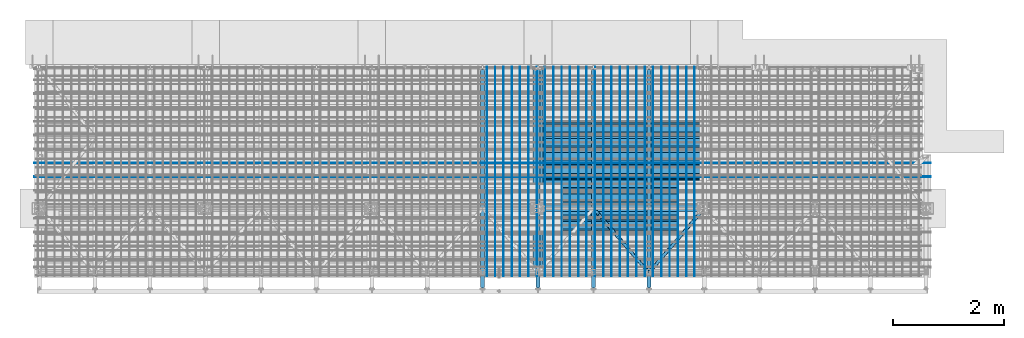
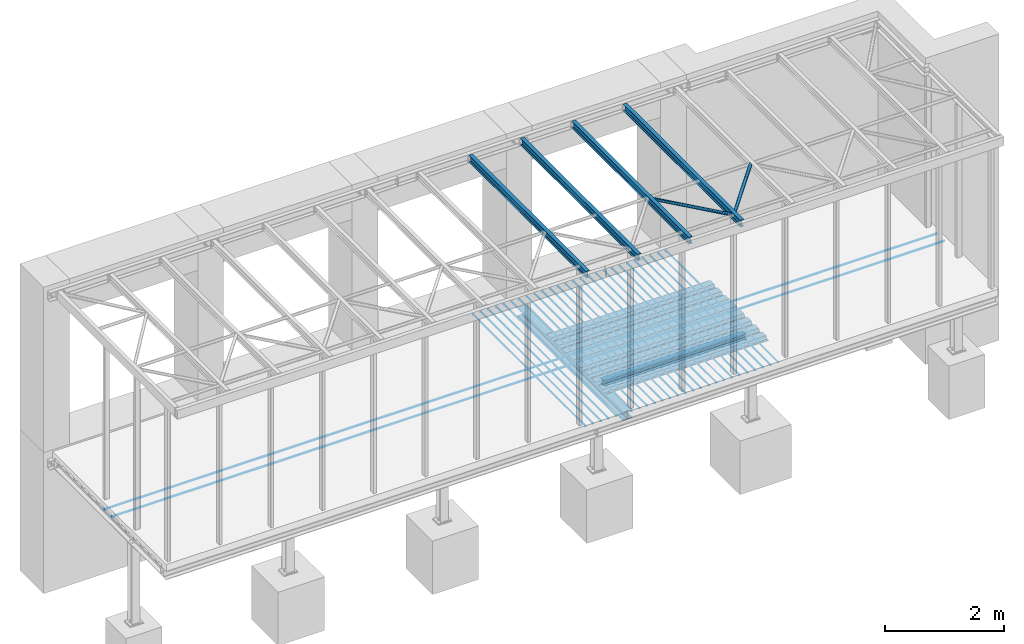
# One storey, part 7 of 27: 38 beams, 38 elements without a shape of their own.
"""IFC2X3 building model written with IfcOpenShell, lengths in millimetres."""

from ifc_helpers import new_model, si_unit, frame, origin_with_axes, origin_2d_with_axis, place, context, subcontext, project, spatial, polyline, circle, hollow_circle, i_section, outline, extrude, boolean, halfspace, material, type_object, element, aggregate, save


model = new_model("IFC2X3")

# Units and contexts
model_context = context("Model", 3, precision=1e-05, world=origin_with_axes())
body_context = subcontext(model_context, "Body", "Model", "MODEL_VIEW")
ifc_project = project(units=[si_unit("LENGTHUNIT", "METRE", prefix="MILLI"), si_unit("AREAUNIT", "SQUARE_METRE"), si_unit("VOLUMEUNIT", "CUBIC_METRE"), si_unit("MASSUNIT", "GRAM", prefix="KILO"), si_unit("TIMEUNIT", "SECOND"), si_unit("PLANEANGLEUNIT", "RADIAN"), si_unit("SOLIDANGLEUNIT", "STERADIAN"), si_unit("THERMODYNAMICTEMPERATUREUNIT", "DEGREE_CELSIUS"), si_unit("LUMINOUSINTENSITYUNIT", "LUMEN")], contexts=[model_context])

# Site, building, storey
site_placement = place(None, origin_with_axes())
site = spatial("IfcSite", under=ifc_project, at=site_placement, Name="Undefined", CompositionType="ELEMENT")
building_placement = place(site_placement, origin_with_axes())
building = spatial("IfcBuilding", under=site, at=building_placement, Name="Undefined", CompositionType="ELEMENT")
storey_placement = place(building_placement, origin_with_axes())
storey = spatial("IfcBuildingStorey", under=building, at=storey_placement, Name="Undefined", CompositionType="ELEMENT", Elevation=0.0)

# Assembly, beam
assembly_1_placement = place(storey_placement, origin_with_axes())
assembly_1 = element("IfcElementAssembly", 1, at=assembly_1_placement, inside=storey, Name="Steel Assembly", AssemblyPlace="NOTDEFINED", PredefinedType="RIGID_FRAME")
ifc_material = material(Name="STEEL/S235JR")
beam_type_1 = type_object("IfcBeamType", Name="D8", PredefinedType="NOTDEFINED")
beam_1_placement = place(assembly_1_placement, frame((11877.5, 3814.99758213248, -49.0), z_axis=(0.0, 0.0, 1.0), x_axis=(0.0, -1.0, 0.0)))
beam_1 = element("IfcBeam", 2, at=beam_1_placement, type_object=beam_type_1, material=ifc_material, Name="VÝSTUZ PLECHODOSKA", ObjectType="D8", context=body_context, shape_type="SweptSolid", body=[
    extrude(circle(Radius=4.0, at=origin_2d_with_axis()), frame((3779.99758213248, 0.0, 0.0), z_axis=(-1.0, 0.0, 0.0), x_axis=(0.0, -1.0, 0.0)), (0.0, 0.0, 1.0), 3780.0),
])
aggregate(assembly_1, [beam_1])

assembly_2_placement = place(storey_placement, origin_with_axes())
assembly_2 = element("IfcElementAssembly", 3, at=assembly_2_placement, inside=storey, Name="Steel Assembly", AssemblyPlace="NOTDEFINED", PredefinedType="RIGID_FRAME")
beam_2_placement = place(assembly_2_placement, frame((11727.5, 3814.99758213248, -49.0), z_axis=(0.0, 0.0, 1.0), x_axis=(0.0, -1.0, 0.0)))
beam_2 = element("IfcBeam", 4, at=beam_2_placement, type_object=beam_type_1, material=ifc_material, Name="VÝSTUZ PLECHODOSKA", ObjectType="D8", context=body_context, shape_type="SweptSolid", body=[
    extrude(circle(Radius=4.0, at=origin_2d_with_axis()), frame((3779.99758213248, 0.0, 0.0), z_axis=(-1.0, 0.0, 0.0), x_axis=(0.0, -1.0, 0.0)), (0.0, 0.0, 1.0), 3780.0),
])
aggregate(assembly_2, [beam_2])

assembly_3_placement = place(storey_placement, origin_with_axes())
assembly_3 = element("IfcElementAssembly", 5, at=assembly_3_placement, inside=storey, Name="Steel Assembly", AssemblyPlace="NOTDEFINED", PredefinedType="RIGID_FRAME")
beam_3_placement = place(assembly_3_placement, frame((11577.5, 3814.99758213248, -49.0), z_axis=(0.0, 0.0, 1.0), x_axis=(0.0, -1.0, 0.0)))
beam_3 = element("IfcBeam", 6, at=beam_3_placement, type_object=beam_type_1, material=ifc_material, Name="VÝSTUZ PLECHODOSKA", ObjectType="D8", context=body_context, shape_type="SweptSolid", body=[
    extrude(circle(Radius=4.0, at=origin_2d_with_axis()), frame((3779.99758213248, 0.0, 0.0), z_axis=(-1.0, 0.0, 0.0), x_axis=(0.0, -1.0, 0.0)), (0.0, 0.0, 1.0), 3780.0),
])
aggregate(assembly_3, [beam_3])

assembly_4_placement = place(storey_placement, origin_with_axes())
assembly_4 = element("IfcElementAssembly", 7, at=assembly_4_placement, inside=storey, Name="Steel Assembly", AssemblyPlace="NOTDEFINED", PredefinedType="RIGID_FRAME")
beam_4_placement = place(assembly_4_placement, frame((11427.5, 3814.99758213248, -49.0), z_axis=(0.0, 0.0, 1.0), x_axis=(0.0, -1.0, 0.0)))
beam_4 = element("IfcBeam", 8, at=beam_4_placement, type_object=beam_type_1, material=ifc_material, Name="VÝSTUZ PLECHODOSKA", ObjectType="D8", context=body_context, shape_type="SweptSolid", body=[
    extrude(circle(Radius=4.0, at=origin_2d_with_axis()), frame((3779.99758213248, 0.0, 0.0), z_axis=(-1.0, 0.0, 0.0), x_axis=(0.0, -1.0, 0.0)), (0.0, 0.0, 1.0), 3780.0),
])
aggregate(assembly_4, [beam_4])

assembly_5_placement = place(storey_placement, origin_with_axes())
assembly_5 = element("IfcElementAssembly", 9, at=assembly_5_placement, inside=storey, Name="Steel Assembly", AssemblyPlace="NOTDEFINED", PredefinedType="RIGID_FRAME")
beam_5_placement = place(assembly_5_placement, frame((11277.5, 3814.99758213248, -49.0), z_axis=(0.0, 0.0, 1.0), x_axis=(0.0, -1.0, 0.0)))
beam_5 = element("IfcBeam", 10, at=beam_5_placement, type_object=beam_type_1, material=ifc_material, Name="VÝSTUZ PLECHODOSKA", ObjectType="D8", context=body_context, shape_type="SweptSolid", body=[
    extrude(circle(Radius=4.0, at=origin_2d_with_axis()), frame((3779.99758213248, 0.0, 0.0), z_axis=(-1.0, 0.0, 0.0), x_axis=(0.0, -1.0, 0.0)), (0.0, 0.0, 1.0), 3780.0),
])
aggregate(assembly_5, [beam_5])

assembly_6_placement = place(storey_placement, origin_with_axes())
assembly_6 = element("IfcElementAssembly", 11, at=assembly_6_placement, inside=storey, Name="Steel Assembly", AssemblyPlace="NOTDEFINED", PredefinedType="RIGID_FRAME")
beam_6_placement = place(assembly_6_placement, frame((11127.5, 3814.99758213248, -49.0), z_axis=(0.0, 0.0, 1.0), x_axis=(0.0, -1.0, 0.0)))
beam_6 = element("IfcBeam", 12, at=beam_6_placement, type_object=beam_type_1, material=ifc_material, Name="VÝSTUZ PLECHODOSKA", ObjectType="D8", context=body_context, shape_type="SweptSolid", body=[
    extrude(circle(Radius=4.0, at=origin_2d_with_axis()), frame((3779.99758213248, 0.0, 0.0), z_axis=(-1.0, 0.0, 0.0), x_axis=(0.0, -1.0, 0.0)), (0.0, 0.0, 1.0), 3780.0),
])
aggregate(assembly_6, [beam_6])

assembly_7_placement = place(storey_placement, origin_with_axes())
assembly_7 = element("IfcElementAssembly", 13, at=assembly_7_placement, inside=storey, Name="Steel Assembly", AssemblyPlace="NOTDEFINED", PredefinedType="RIGID_FRAME")
beam_7_placement = place(assembly_7_placement, frame((10977.5, 3814.99758213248, -49.0), z_axis=(0.0, 0.0, 1.0), x_axis=(0.0, -1.0, 0.0)))
beam_7 = element("IfcBeam", 14, at=beam_7_placement, type_object=beam_type_1, material=ifc_material, Name="VÝSTUZ PLECHODOSKA", ObjectType="D8", context=body_context, shape_type="SweptSolid", body=[
    extrude(circle(Radius=4.0, at=origin_2d_with_axis()), frame((3779.99758213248, 0.0, 0.0), z_axis=(-1.0, 0.0, 0.0), x_axis=(0.0, -1.0, 0.0)), (0.0, 0.0, 1.0), 3780.0),
])
aggregate(assembly_7, [beam_7])

assembly_8_placement = place(storey_placement, origin_with_axes())
assembly_8 = element("IfcElementAssembly", 15, at=assembly_8_placement, inside=storey, Name="Steel Assembly", AssemblyPlace="NOTDEFINED", PredefinedType="RIGID_FRAME")
beam_8_placement = place(assembly_8_placement, frame((10827.5, 3814.99758213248, -49.0), z_axis=(0.0, 0.0, 1.0), x_axis=(0.0, -1.0, 0.0)))
beam_8 = element("IfcBeam", 16, at=beam_8_placement, type_object=beam_type_1, material=ifc_material, Name="VÝSTUZ PLECHODOSKA", ObjectType="D8", context=body_context, shape_type="SweptSolid", body=[
    extrude(circle(Radius=4.0, at=origin_2d_with_axis()), frame((3779.99758213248, 0.0, 0.0), z_axis=(-1.0, 0.0, 0.0), x_axis=(0.0, -1.0, 0.0)), (0.0, 0.0, 1.0), 3780.0),
])
aggregate(assembly_8, [beam_8])

assembly_9_placement = place(storey_placement, origin_with_axes())
assembly_9 = element("IfcElementAssembly", 17, at=assembly_9_placement, inside=storey, Name="Steel Assembly", AssemblyPlace="NOTDEFINED", PredefinedType="RIGID_FRAME")
beam_9_placement = place(assembly_9_placement, frame((10677.5, 3814.99758213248, -49.0), z_axis=(0.0, 0.0, 1.0), x_axis=(0.0, -1.0, 0.0)))
beam_9 = element("IfcBeam", 18, at=beam_9_placement, type_object=beam_type_1, material=ifc_material, Name="VÝSTUZ PLECHODOSKA", ObjectType="D8", context=body_context, shape_type="SweptSolid", body=[
    extrude(circle(Radius=4.0, at=origin_2d_with_axis()), frame((3779.99758213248, 0.0, 0.0), z_axis=(-1.0, 0.0, 0.0), x_axis=(0.0, -1.0, 0.0)), (0.0, 0.0, 1.0), 3780.0),
])
aggregate(assembly_9, [beam_9])

assembly_10_placement = place(storey_placement, origin_with_axes())
assembly_10 = element("IfcElementAssembly", 19, at=assembly_10_placement, inside=storey, Name="Steel Assembly", AssemblyPlace="NOTDEFINED", PredefinedType="RIGID_FRAME")
beam_10_placement = place(assembly_10_placement, frame((10527.5, 3814.99758213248, -49.0), z_axis=(0.0, 0.0, 1.0), x_axis=(0.0, -1.0, 0.0)))
beam_10 = element("IfcBeam", 20, at=beam_10_placement, type_object=beam_type_1, material=ifc_material, Name="VÝSTUZ PLECHODOSKA", ObjectType="D8", context=body_context, shape_type="SweptSolid", body=[
    extrude(circle(Radius=4.0, at=origin_2d_with_axis()), frame((3779.99758213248, 0.0, 0.0), z_axis=(-1.0, 0.0, 0.0), x_axis=(0.0, -1.0, 0.0)), (0.0, 0.0, 1.0), 3780.0),
])
aggregate(assembly_10, [beam_10])

assembly_11_placement = place(storey_placement, origin_with_axes())
assembly_11 = element("IfcElementAssembly", 21, at=assembly_11_placement, inside=storey, Name="Steel Assembly", AssemblyPlace="NOTDEFINED", PredefinedType="RIGID_FRAME")
beam_11_placement = place(assembly_11_placement, frame((10377.5, 3814.99758213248, -49.0), z_axis=(0.0, 0.0, 1.0), x_axis=(0.0, -1.0, 0.0)))
beam_11 = element("IfcBeam", 22, at=beam_11_placement, type_object=beam_type_1, material=ifc_material, Name="VÝSTUZ PLECHODOSKA", ObjectType="D8", context=body_context, shape_type="SweptSolid", body=[
    extrude(circle(Radius=4.0, at=origin_2d_with_axis()), frame((3779.99758213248, 0.0, 0.0), z_axis=(-1.0, 0.0, 0.0), x_axis=(0.0, -1.0, 0.0)), (0.0, 0.0, 1.0), 3780.0),
])
aggregate(assembly_11, [beam_11])

assembly_12_placement = place(storey_placement, origin_with_axes())
assembly_12 = element("IfcElementAssembly", 23, at=assembly_12_placement, inside=storey, Name="Steel Assembly", AssemblyPlace="NOTDEFINED", PredefinedType="RIGID_FRAME")
beam_12_placement = place(assembly_12_placement, frame((10227.5, 3814.99758213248, -49.0), z_axis=(0.0, 0.0, 1.0), x_axis=(0.0, -1.0, 0.0)))
beam_12 = element("IfcBeam", 24, at=beam_12_placement, type_object=beam_type_1, material=ifc_material, Name="VÝSTUZ PLECHODOSKA", ObjectType="D8", context=body_context, shape_type="SweptSolid", body=[
    extrude(circle(Radius=4.0, at=origin_2d_with_axis()), frame((3779.99758213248, 0.0, 0.0), z_axis=(-1.0, 0.0, 0.0), x_axis=(0.0, -1.0, 0.0)), (0.0, 0.0, 1.0), 3780.0),
])
aggregate(assembly_12, [beam_12])

assembly_13_placement = place(storey_placement, origin_with_axes())
assembly_13 = element("IfcElementAssembly", 25, at=assembly_13_placement, inside=storey, Name="Steel Assembly", AssemblyPlace="NOTDEFINED", PredefinedType="RIGID_FRAME")
beam_13_placement = place(assembly_13_placement, frame((10077.5, 3814.99758213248, -49.0), z_axis=(0.0, 0.0, 1.0), x_axis=(0.0, -1.0, 0.0)))
beam_13 = element("IfcBeam", 26, at=beam_13_placement, type_object=beam_type_1, material=ifc_material, Name="VÝSTUZ PLECHODOSKA", ObjectType="D8", context=body_context, shape_type="SweptSolid", body=[
    extrude(circle(Radius=4.0, at=origin_2d_with_axis()), frame((3779.99758213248, 0.0, 0.0), z_axis=(-1.0, 0.0, 0.0), x_axis=(0.0, -1.0, 0.0)), (0.0, 0.0, 1.0), 3780.0),
])
aggregate(assembly_13, [beam_13])

assembly_14_placement = place(storey_placement, origin_with_axes())
assembly_14 = element("IfcElementAssembly", 27, at=assembly_14_placement, inside=storey, Name="Steel Assembly", AssemblyPlace="NOTDEFINED", PredefinedType="RIGID_FRAME")
beam_14_placement = place(assembly_14_placement, frame((9927.5, 3814.99758213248, -49.0), z_axis=(0.0, 0.0, 1.0), x_axis=(0.0, -1.0, 0.0)))
beam_14 = element("IfcBeam", 28, at=beam_14_placement, type_object=beam_type_1, material=ifc_material, Name="VÝSTUZ PLECHODOSKA", ObjectType="D8", context=body_context, shape_type="SweptSolid", body=[
    extrude(circle(Radius=4.0, at=origin_2d_with_axis()), frame((3779.99758213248, 0.0, 0.0), z_axis=(-1.0, 0.0, 0.0), x_axis=(0.0, -1.0, 0.0)), (0.0, 0.0, 1.0), 3780.0),
])
aggregate(assembly_14, [beam_14])

assembly_15_placement = place(storey_placement, origin_with_axes())
assembly_15 = element("IfcElementAssembly", 29, at=assembly_15_placement, inside=storey, Name="Steel Assembly", AssemblyPlace="NOTDEFINED", PredefinedType="RIGID_FRAME")
beam_15_placement = place(assembly_15_placement, frame((9777.5, 3814.99758213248, -49.0), z_axis=(0.0, 0.0, 1.0), x_axis=(0.0, -1.0, 0.0)))
beam_15 = element("IfcBeam", 30, at=beam_15_placement, type_object=beam_type_1, material=ifc_material, Name="VÝSTUZ PLECHODOSKA", ObjectType="D8", context=body_context, shape_type="SweptSolid", body=[
    extrude(circle(Radius=4.0, at=origin_2d_with_axis()), frame((3779.99758213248, 0.0, 0.0), z_axis=(-1.0, 0.0, 0.0), x_axis=(0.0, -1.0, 0.0)), (0.0, 0.0, 1.0), 3780.0),
])
aggregate(assembly_15, [beam_15])

assembly_16_placement = place(storey_placement, origin_with_axes())
assembly_16 = element("IfcElementAssembly", 31, at=assembly_16_placement, inside=storey, Name="Steel Assembly", AssemblyPlace="NOTDEFINED", PredefinedType="RIGID_FRAME")
beam_16_placement = place(assembly_16_placement, frame((9627.5, 3814.99758213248, -49.0), z_axis=(0.0, 0.0, 1.0), x_axis=(0.0, -1.0, 0.0)))
beam_16 = element("IfcBeam", 32, at=beam_16_placement, type_object=beam_type_1, material=ifc_material, Name="VÝSTUZ PLECHODOSKA", ObjectType="D8", context=body_context, shape_type="SweptSolid", body=[
    extrude(circle(Radius=4.0, at=origin_2d_with_axis()), frame((3779.99758213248, 0.0, 0.0), z_axis=(-1.0, 0.0, 0.0), x_axis=(0.0, -1.0, 0.0)), (0.0, 0.0, 1.0), 3780.0),
])
aggregate(assembly_16, [beam_16])

assembly_17_placement = place(storey_placement, origin_with_axes())
assembly_17 = element("IfcElementAssembly", 33, at=assembly_17_placement, inside=storey, Name="Steel Assembly", AssemblyPlace="NOTDEFINED", PredefinedType="RIGID_FRAME")
beam_17_placement = place(assembly_17_placement, frame((9477.5, 3814.99758213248, -49.0), z_axis=(0.0, 0.0, 1.0), x_axis=(0.0, -1.0, 0.0)))
beam_17 = element("IfcBeam", 34, at=beam_17_placement, type_object=beam_type_1, material=ifc_material, Name="VÝSTUZ PLECHODOSKA", ObjectType="D8", context=body_context, shape_type="SweptSolid", body=[
    extrude(circle(Radius=4.0, at=origin_2d_with_axis()), frame((3779.99758213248, 0.0, 0.0), z_axis=(-1.0, 0.0, 0.0), x_axis=(0.0, -1.0, 0.0)), (0.0, 0.0, 1.0), 3780.0),
])
aggregate(assembly_17, [beam_17])

assembly_18_placement = place(storey_placement, origin_with_axes())
assembly_18 = element("IfcElementAssembly", 35, at=assembly_18_placement, inside=storey, Name="Steel Assembly", AssemblyPlace="NOTDEFINED", PredefinedType="RIGID_FRAME")
beam_18_placement = place(assembly_18_placement, frame((9327.5, 3814.99758213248, -49.0), z_axis=(0.0, 0.0, 1.0), x_axis=(0.0, -1.0, 0.0)))
beam_18 = element("IfcBeam", 36, at=beam_18_placement, type_object=beam_type_1, material=ifc_material, Name="VÝSTUZ PLECHODOSKA", ObjectType="D8", context=body_context, shape_type="SweptSolid", body=[
    extrude(circle(Radius=4.0, at=origin_2d_with_axis()), frame((3779.99758213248, 0.0, 0.0), z_axis=(-1.0, 0.0, 0.0), x_axis=(0.0, -1.0, 0.0)), (0.0, 0.0, 1.0), 3780.0),
])
aggregate(assembly_18, [beam_18])

assembly_19_placement = place(storey_placement, origin_with_axes())
assembly_19 = element("IfcElementAssembly", 37, at=assembly_19_placement, inside=storey, Name="Steel Assembly", AssemblyPlace="NOTDEFINED", PredefinedType="RIGID_FRAME")
beam_19_placement = place(assembly_19_placement, frame((9177.5, 3814.99758213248, -49.0), z_axis=(0.0, 0.0, 1.0), x_axis=(0.0, -1.0, 0.0)))
beam_19 = element("IfcBeam", 38, at=beam_19_placement, type_object=beam_type_1, material=ifc_material, Name="VÝSTUZ PLECHODOSKA", ObjectType="D8", context=body_context, shape_type="SweptSolid", body=[
    extrude(circle(Radius=4.0, at=origin_2d_with_axis()), frame((3779.99758213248, 0.0, 0.0), z_axis=(-1.0, 0.0, 0.0), x_axis=(0.0, -1.0, 0.0)), (0.0, 0.0, 1.0), 3780.0),
])
aggregate(assembly_19, [beam_19])

assembly_20_placement = place(storey_placement, origin_with_axes())
assembly_20 = element("IfcElementAssembly", 39, at=assembly_20_placement, inside=storey, Name="Steel Assembly", AssemblyPlace="NOTDEFINED", PredefinedType="RIGID_FRAME")
beam_20_placement = place(assembly_20_placement, frame((9027.5, 3814.99758213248, -49.0), z_axis=(0.0, 0.0, 1.0), x_axis=(0.0, -1.0, 0.0)))
beam_20 = element("IfcBeam", 40, at=beam_20_placement, type_object=beam_type_1, material=ifc_material, Name="VÝSTUZ PLECHODOSKA", ObjectType="D8", context=body_context, shape_type="SweptSolid", body=[
    extrude(circle(Radius=4.0, at=origin_2d_with_axis()), frame((3779.99758213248, 0.0, 0.0), z_axis=(-1.0, 0.0, 0.0), x_axis=(0.0, -1.0, 0.0)), (0.0, 0.0, 1.0), 3780.0),
])
aggregate(assembly_20, [beam_20])

assembly_21_placement = place(storey_placement, origin_with_axes())
assembly_21 = element("IfcElementAssembly", 41, at=assembly_21_placement, inside=storey, Name="Steel Assembly", AssemblyPlace="NOTDEFINED", PredefinedType="RIGID_FRAME")
beam_21_placement = place(assembly_21_placement, frame((8877.5, 3814.99758213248, -49.0), z_axis=(0.0, 0.0, 1.0), x_axis=(0.0, -1.0, 0.0)))
beam_21 = element("IfcBeam", 42, at=beam_21_placement, type_object=beam_type_1, material=ifc_material, Name="VÝSTUZ PLECHODOSKA", ObjectType="D8", context=body_context, shape_type="SweptSolid", body=[
    extrude(circle(Radius=4.0, at=origin_2d_with_axis()), frame((3779.99758213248, 0.0, 0.0), z_axis=(-1.0, 0.0, 0.0), x_axis=(0.0, -1.0, 0.0)), (0.0, 0.0, 1.0), 3780.0),
])
aggregate(assembly_21, [beam_21])

assembly_22_placement = place(storey_placement, origin_with_axes())
assembly_22 = element("IfcElementAssembly", 43, at=assembly_22_placement, inside=storey, Name="Steel Assembly", AssemblyPlace="NOTDEFINED", PredefinedType="RIGID_FRAME")
beam_22_placement = place(assembly_22_placement, frame((8727.5, 3814.99758213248, -49.0), z_axis=(0.0, 0.0, 1.0), x_axis=(0.0, -1.0, 0.0)))
beam_22 = element("IfcBeam", 44, at=beam_22_placement, type_object=beam_type_1, material=ifc_material, Name="VÝSTUZ PLECHODOSKA", ObjectType="D8", context=body_context, shape_type="SweptSolid", body=[
    extrude(circle(Radius=4.0, at=origin_2d_with_axis()), frame((3779.99758213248, 0.0, 0.0), z_axis=(-1.0, 0.0, 0.0), x_axis=(0.0, -1.0, 0.0)), (0.0, 0.0, 1.0), 3780.0),
])
aggregate(assembly_22, [beam_22])

assembly_23_placement = place(storey_placement, origin_with_axes())
assembly_23 = element("IfcElementAssembly", 45, at=assembly_23_placement, inside=storey, Name="Steel Assembly", AssemblyPlace="NOTDEFINED", PredefinedType="RIGID_FRAME")
beam_23_placement = place(assembly_23_placement, frame((8577.5, 3814.99758213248, -49.0), z_axis=(0.0, 0.0, 1.0), x_axis=(0.0, -1.0, 0.0)))
beam_23 = element("IfcBeam", 46, at=beam_23_placement, type_object=beam_type_1, material=ifc_material, Name="VÝSTUZ PLECHODOSKA", ObjectType="D8", context=body_context, shape_type="SweptSolid", body=[
    extrude(circle(Radius=4.0, at=origin_2d_with_axis()), frame((3779.99758213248, 0.0, 0.0), z_axis=(-1.0, 0.0, 0.0), x_axis=(0.0, -1.0, 0.0)), (0.0, 0.0, 1.0), 3780.0),
])
aggregate(assembly_23, [beam_23])

assembly_24_placement = place(storey_placement, origin_with_axes())
assembly_24 = element("IfcElementAssembly", 47, at=assembly_24_placement, inside=storey, Name="Steel Assembly", AssemblyPlace="NOTDEFINED", PredefinedType="RIGID_FRAME")
beam_24_placement = place(assembly_24_placement, frame((8427.5, 3814.99758213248, -49.0), z_axis=(0.0, 0.0, 1.0), x_axis=(0.0, -1.0, 0.0)))
beam_24 = element("IfcBeam", 48, at=beam_24_placement, type_object=beam_type_1, material=ifc_material, Name="VÝSTUZ PLECHODOSKA", ObjectType="D8", context=body_context, shape_type="SweptSolid", body=[
    extrude(circle(Radius=4.0, at=origin_2d_with_axis()), frame((3779.99758213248, 0.0, 0.0), z_axis=(-1.0, 0.0, 0.0), x_axis=(0.0, -1.0, 0.0)), (0.0, 0.0, 1.0), 3780.0),
])
aggregate(assembly_24, [beam_24])

assembly_25_placement = place(storey_placement, origin_with_axes())
assembly_25 = element("IfcElementAssembly", 49, at=assembly_25_placement, inside=storey, Name="Steel Assembly", AssemblyPlace="NOTDEFINED", PredefinedType="RIGID_FRAME")
beam_25_placement = place(assembly_25_placement, frame((8277.5, 3814.99758213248, -49.0), z_axis=(0.0, 0.0, 1.0), x_axis=(0.0, -1.0, 0.0)))
beam_25 = element("IfcBeam", 50, at=beam_25_placement, type_object=beam_type_1, material=ifc_material, Name="VÝSTUZ PLECHODOSKA", ObjectType="D8", context=body_context, shape_type="SweptSolid", body=[
    extrude(circle(Radius=4.0, at=origin_2d_with_axis()), frame((3779.99758213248, 0.0, 0.0), z_axis=(-1.0, 0.0, 0.0), x_axis=(0.0, -1.0, 0.0)), (0.0, 0.0, 1.0), 3780.0),
])
aggregate(assembly_25, [beam_25])

assembly_26_placement = place(storey_placement, origin_with_axes())
assembly_26 = element("IfcElementAssembly", 51, at=assembly_26_placement, inside=storey, Name="Steel Assembly", AssemblyPlace="NOTDEFINED", PredefinedType="RIGID_FRAME")
beam_26_placement = place(assembly_26_placement, frame((8127.5, 3814.99758213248, -49.0), z_axis=(0.0, 0.0, 1.0), x_axis=(0.0, -1.0, 0.0)))
beam_26 = element("IfcBeam", 52, at=beam_26_placement, type_object=beam_type_1, material=ifc_material, Name="VÝSTUZ PLECHODOSKA", ObjectType="D8", context=body_context, shape_type="SweptSolid", body=[
    extrude(circle(Radius=4.0, at=origin_2d_with_axis()), frame((3779.99758213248, 0.0, 0.0), z_axis=(-1.0, 0.0, 0.0), x_axis=(0.0, -1.0, 0.0)), (0.0, 0.0, 1.0), 3780.0),
])
aggregate(assembly_26, [beam_26])

assembly_27_placement = place(storey_placement, origin_with_axes())
assembly_27 = element("IfcElementAssembly", 53, at=assembly_27_placement, inside=storey, Name="Steel Assembly", AssemblyPlace="NOTDEFINED", PredefinedType="RIGID_FRAME")
beam_type_2 = type_object("IfcBeamType", Name="D12", PredefinedType="NOTDEFINED")
beam_27_placement = place(assembly_27_placement, frame((-40.0, 1829.99256199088, -139.0), z_axis=(0.0, 0.0, 1.0), x_axis=(1.0, 0.0, 0.0)))
beam_27 = element("IfcBeam", 54, at=beam_27_placement, type_object=beam_type_2, material=ifc_material, Name="VÝSTUZ PLECHODOSKA", ObjectType="D12", context=body_context, shape_type="SweptSolid", body=[
    extrude(circle(Radius=6.0, at=origin_2d_with_axis()), frame((16180.0, 0.0, 0.0), z_axis=(-1.0, 0.0, 0.0), x_axis=(0.0, -1.0, 0.0)), (0.0, 0.0, 1.0), 16180.0),
])
aggregate(assembly_27, [beam_27])

assembly_28_placement = place(storey_placement, origin_with_axes())
assembly_28 = element("IfcElementAssembly", 55, at=assembly_28_placement, inside=storey, Name="Steel Assembly", AssemblyPlace="NOTDEFINED", PredefinedType="RIGID_FRAME")
beam_28_placement = place(assembly_28_placement, frame((-40.0, 2079.99256199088, -139.0), z_axis=(0.0, 0.0, 1.0), x_axis=(1.0, 0.0, 0.0)))
beam_28 = element("IfcBeam", 56, at=beam_28_placement, type_object=beam_type_2, material=ifc_material, Name="VÝSTUZ PLECHODOSKA", ObjectType="D12", context=body_context, shape_type="SweptSolid", body=[
    extrude(circle(Radius=6.0, at=origin_2d_with_axis()), frame((16180.0, 0.0, 0.0), z_axis=(-1.0, 0.0, 0.0), x_axis=(0.0, -1.0, 0.0)), (0.0, 0.0, 1.0), 16180.0),
])
aggregate(assembly_28, [beam_28])

assembly_29_placement = place(storey_placement, origin_with_axes())
assembly_29 = element("IfcElementAssembly", 57, at=assembly_29_placement, inside=storey, Name="Steel Assembly", AssemblyPlace="NOTDEFINED", PredefinedType="RIGID_FRAME")
beam_type_3 = type_object("IfcBeamType", Name="TR50/250", PredefinedType="NOTDEFINED")
beam_29_placement = place(assembly_29_placement, frame((8960.0, 1315.04756992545, -135.38), z_axis=(0.0, 0.0, 1.0), x_axis=(1.0, 0.0, 0.0)))
beam_29 = element("IfcBeam", 58, at=beam_29_placement, type_object=beam_type_3, material=ifc_material, Name="Trapézový plech", ObjectType="TR50/250", context=body_context, shape_type="SweptSolid", body=[
    extrude(outline(polyline([(-487.739990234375, -24.6299991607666), (-524.950012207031, -24.6200008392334), (-524.950012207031, -23.8700008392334), (-488.149993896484, -23.8700008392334), (-457.649993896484, 24.6299991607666), (-322.239990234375, 24.6299991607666), (-291.739990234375, -23.8700008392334), (-238.149993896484, -23.8700008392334), (-207.649993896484, 24.6299991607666), (-72.2399978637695, 24.6299991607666), (-41.7400016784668, -23.8700008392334), (11.8500003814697, -23.8700008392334), (42.3499984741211, 24.6299991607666), (177.759994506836, 24.6299991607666), (208.259994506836, -23.8700008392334), (261.850006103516, -23.8700008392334), (292.350006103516, 24.6299991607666), (427.760009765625, 24.6299991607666), (458.260009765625, -23.8700008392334), (511.850006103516, -23.8700008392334), (524.309997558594, -4.05000019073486), (524.950012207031, -4.44999980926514), (512.260009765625, -24.6200008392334), (457.850006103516, -24.6200008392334), (427.350006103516, 23.8799991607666), (292.760009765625, 23.8799991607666), (262.260009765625, -24.6200008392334), (207.850006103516, -24.6200008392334), (177.350006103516, 23.8799991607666), (42.7599983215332, 23.8799991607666), (12.2600002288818, -24.6200008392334), (-42.1500015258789, -24.6200008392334), (-72.6500015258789, 23.8799991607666), (-207.240005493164, 23.8799991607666), (-237.740005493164, -24.6200008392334), (-292.149993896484, -24.6200008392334), (-322.649993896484, 23.8799991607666), (-457.239990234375, 23.8799991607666), (-487.739990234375, -24.6299991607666)])), frame((3180.0, 0.0, 0.0), z_axis=(-1.0, 0.0, 0.0), x_axis=(0.0, -1.0, 0.0)), (0.0, 0.0, 1.0), 3180.0),
])
aggregate(assembly_29, [beam_29])

assembly_30_placement = place(storey_placement, origin_with_axes())
assembly_30 = element("IfcElementAssembly", 59, at=assembly_30_placement, inside=storey, Name="Steel Assembly", AssemblyPlace="NOTDEFINED", PredefinedType="RIGID_FRAME")
beam_30_placement = place(assembly_30_placement, frame((8960.0, 2315.04756992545, -135.38), z_axis=(0.0, 0.0, 1.0), x_axis=(1.0, 0.0, 0.0)))
beam_30 = element("IfcBeam", 60, at=beam_30_placement, type_object=beam_type_3, material=ifc_material, Name="Trapézový plech", ObjectType="TR50/250", context=body_context, shape_type="SweptSolid", body=[
    extrude(outline(polyline([(-487.739990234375, -24.6299991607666), (-524.950012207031, -24.6200008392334), (-524.950012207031, -23.8700008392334), (-488.149993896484, -23.8700008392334), (-457.649993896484, 24.6299991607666), (-322.239990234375, 24.6299991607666), (-291.739990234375, -23.8700008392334), (-238.149993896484, -23.8700008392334), (-207.649993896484, 24.6299991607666), (-72.2399978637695, 24.6299991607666), (-41.7400016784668, -23.8700008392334), (11.8500003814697, -23.8700008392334), (42.3499984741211, 24.6299991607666), (177.759994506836, 24.6299991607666), (208.259994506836, -23.8700008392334), (261.850006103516, -23.8700008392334), (292.350006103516, 24.6299991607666), (427.760009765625, 24.6299991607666), (458.260009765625, -23.8700008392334), (511.850006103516, -23.8700008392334), (524.309997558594, -4.05000019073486), (524.950012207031, -4.44999980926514), (512.260009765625, -24.6200008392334), (457.850006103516, -24.6200008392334), (427.350006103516, 23.8799991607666), (292.760009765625, 23.8799991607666), (262.260009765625, -24.6200008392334), (207.850006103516, -24.6200008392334), (177.350006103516, 23.8799991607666), (42.7599983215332, 23.8799991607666), (12.2600002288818, -24.6200008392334), (-42.1500015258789, -24.6200008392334), (-72.6500015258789, 23.8799991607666), (-207.240005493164, 23.8799991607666), (-237.740005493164, -24.6200008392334), (-292.149993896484, -24.6200008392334), (-322.649993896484, 23.8799991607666), (-457.239990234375, 23.8799991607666), (-487.739990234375, -24.6299991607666)])), frame((3180.0, 0.0, 0.0), z_axis=(-1.0, 0.0, 0.0), x_axis=(0.0, -1.0, 0.0)), (0.0, 0.0, 1.0), 3180.0),
])
aggregate(assembly_30, [beam_30])

assembly_31_placement = place(storey_placement, origin_with_axes())
assembly_31 = element("IfcElementAssembly", 61, at=assembly_31_placement, inside=storey, Name="Steel Assembly", AssemblyPlace="NOTDEFINED", PredefinedType="RIGID_FRAME")
beam_type_4 = type_object("IfcBeamType", Name="HEB180", PredefinedType="NOTDEFINED")
beam_31_placement = place(assembly_31_placement, frame((9050.0, 3767.0, -250.0), z_axis=(0.0, 0.0, 1.0), x_axis=(0.0, -1.0, 0.0)))
beam_31 = element("IfcBeam", 62, at=beam_31_placement, type_object=beam_type_4, material=ifc_material, Name="NOSNÍK", ObjectType="HEB180", context=body_context, shape_type="SweptSolid", body=[
    extrude(i_section(OverallWidth=180.0, OverallDepth=180.0, WebThickness=8.5, FlangeThickness=14.0, FilletRadius=15.0, at=origin_2d_with_axis()), frame((3557.0, 0.0, 0.0), z_axis=(-1.0, 0.0, 0.0), x_axis=(0.0, -1.0, 0.0)), (0.0, 0.0, 1.0), 3557.0),
])
aggregate(assembly_31, [beam_31])

assembly_32_placement = place(storey_placement, origin_with_axes())
assembly_32 = element("IfcElementAssembly", 63, at=assembly_32_placement, inside=storey, Name="Steel Assembly", AssemblyPlace="NOTDEFINED", PredefinedType="RIGID_FRAME")
beam_type_5 = type_object("IfcBeamType", Name="HEA120", PredefinedType="NOTDEFINED")
beam_32_placement = place(assembly_32_placement, frame((9160.0, 1260.0, -250.0), z_axis=(0.0, 0.0, -1.0), x_axis=(1.0, 0.0, 0.0)))
beam_32 = element("IfcBeam", 64, at=beam_32_placement, type_object=beam_type_5, material=ifc_material, Name="NOSNÍK", ObjectType="HEA120", context=body_context, shape_type="SweptSolid", body=[
    extrude(i_section(OverallWidth=120.0, OverallDepth=114.0, WebThickness=5.0, FlangeThickness=8.0, FilletRadius=12.0, at=origin_2d_with_axis()), frame((2780.0, 0.0, 0.0), z_axis=(-1.0, 0.0, 0.0), x_axis=(0.0, -1.0, 0.0)), (0.0, 0.0, 1.0), 2780.0),
])
aggregate(assembly_32, [beam_32])

assembly_33_placement = place(storey_placement, origin_with_axes())
assembly_33 = element("IfcElementAssembly", 65, at=assembly_33_placement, inside=storey, Name="Steel Assembly", AssemblyPlace="NOTDEFINED", PredefinedType="RIGID_FRAME")
beam_type_6 = type_object("IfcBeamType", Name="CHS60.3*5", PredefinedType="NOTDEFINED")
beam_33_placement = place(assembly_33_placement, frame((11050.0, 100.0, 3230.0), z_axis=(0.0, 0.0, -1.0), x_axis=(0.652939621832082, 0.757409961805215, 0.0)))
beam_33 = element("IfcBeam", 66, at=beam_33_placement, type_object=beam_type_6, material=ifc_material, Name="NOSNÍK", ObjectType="CHS60.3*5", context=body_context, shape_type="CSG", body=[
    boolean("DIFFERENCE", boolean("DIFFERENCE", boolean("DIFFERENCE", boolean("DIFFERENCE", extrude(hollow_circle(Radius=30.15, WallThickness=5.0, at=origin_2d_with_axis()), frame((1531.53517752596, -1.81898940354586e-12, 0.0), z_axis=(-1.0, 0.0, 0.0), x_axis=(0.0, -1.0, 0.0)), (0.0, 0.0, 1.0), 1531.5), extrude(hollow_circle(Radius=30.15, WallThickness=5.0, at=origin_2d_with_axis()), frame((1530.00076941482, -1.77991293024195, 0.0), z_axis=(-0.652939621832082, -0.757409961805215, 0.0), x_axis=(0.757409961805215, -0.652939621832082, 0.0)), (0.0, 0.0, 1.0), 995.3)), extrude(hollow_circle(Radius=30.15, WallThickness=5.0, at=origin_2d_with_axis()), frame((651.405213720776, 755.630048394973, 0.0), z_axis=(-0.652939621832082, -0.757409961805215, 0.0), x_axis=(0.757409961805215, -0.652939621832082, 0.0)), (0.0, 0.0, 1.0), 995.3)), halfspace(frame((1562.9100704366, -30.1499999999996, -30.1500000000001), z_axis=(0.652939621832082, 0.757409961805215, 0.0), x_axis=(0.0, 0.0, 1.0)), False)), halfspace(frame((-31.3748924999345, 30.1499999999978, -30.1500000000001), z_axis=(-0.652939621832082, -0.757409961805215, 0.0), x_axis=(0.0, 0.0, 1.0)), False)),
])
aggregate(assembly_33, [beam_33])

assembly_34_placement = place(storey_placement, origin_with_axes())
assembly_34 = element("IfcElementAssembly", 67, at=assembly_34_placement, inside=storey, Name="Steel Assembly", AssemblyPlace="NOTDEFINED", PredefinedType="RIGID_FRAME")
beam_34_placement = place(assembly_34_placement, frame((10049.999999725, 1260.00000021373, 3230.0), z_axis=(0.0, 0.0, -1.0), x_axis=(0.652939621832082, -0.757409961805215, 0.0)))
beam_34 = element("IfcBeam", 68, at=beam_34_placement, type_object=beam_type_6, material=ifc_material, Name="NOSNÍK", ObjectType="CHS60.3*5", context=body_context, shape_type="CSG", body=[
    boolean("DIFFERENCE", boolean("DIFFERENCE", boolean("DIFFERENCE", boolean("DIFFERENCE", extrude(hollow_circle(Radius=30.15, WallThickness=5.0, at=origin_2d_with_axis()), frame((1531.53517752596, -1.81898940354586e-12, 0.0), z_axis=(-1.0, 0.0, 0.0), x_axis=(0.0, -1.0, 0.0)), (0.0, 0.0, 1.0), 1531.5), extrude(hollow_circle(Radius=30.15, WallThickness=5.0, at=origin_2d_with_axis()), frame((651.405214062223, -755.630048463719, 0.0), z_axis=(-0.652939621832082, 0.757409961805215, 0.0), x_axis=(-0.757409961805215, -0.652939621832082, 0.0)), (0.0, 0.0, 1.0), 995.3)), extrude(hollow_circle(Radius=30.15, WallThickness=5.0, at=origin_2d_with_axis()), frame((1530.00076975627, 1.77991286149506, 9.09494701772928e-13), z_axis=(-0.652939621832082, 0.757409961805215, 0.0), x_axis=(-0.757409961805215, -0.652939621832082, 0.0)), (0.0, 0.0, 1.0), 995.3)), halfspace(frame((38.5731081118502, 30.1499999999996, -30.1499999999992), z_axis=(-0.652939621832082, 0.757409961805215, 0.0), x_axis=(0.0, 0.0, 1.0)), False)), halfspace(frame((1562.91007051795, 30.1499999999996, 30.150000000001), z_axis=(0.652939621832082, -0.757409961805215, 0.0), x_axis=(0.0, 0.0, -1.0)), False)),
])
aggregate(assembly_34, [beam_34])

assembly_35_placement = place(storey_placement, origin_with_axes())
assembly_35 = element("IfcElementAssembly", 69, at=assembly_35_placement, inside=storey, Name="Steel Assembly", AssemblyPlace="NOTDEFINED", PredefinedType="RIGID_FRAME")
beam_type_7 = type_object("IfcBeamType", Name="IPE140", PredefinedType="NOTDEFINED")
beam_35_placement = place(assembly_35_placement, frame((8050.0, -180.0, 3230.0), z_axis=(0.0, 0.0, 1.0), x_axis=(0.0, 1.0, 0.0)))
beam_35 = element("IfcBeam", 70, at=beam_35_placement, type_object=beam_type_7, material=ifc_material, Name="NOSNÍK", ObjectType="IPE140", context=body_context, shape_type="SweptSolid", body=[
    extrude(i_section(OverallWidth=73.0, OverallDepth=140.0, WebThickness=4.699999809, FlangeThickness=6.900000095, FilletRadius=7.0, at=origin_2d_with_axis()), frame((3947.0, 0.0, 0.0), z_axis=(-1.0, 0.0, 0.0), x_axis=(0.0, -1.0, 0.0)), (0.0, 0.0, 1.0), 3947.0),
])
aggregate(assembly_35, [beam_35])

assembly_36_placement = place(storey_placement, origin_with_axes())
assembly_36 = element("IfcElementAssembly", 71, at=assembly_36_placement, inside=storey, Name="Steel Assembly", AssemblyPlace="NOTDEFINED", PredefinedType="RIGID_FRAME")
beam_36_placement = place(assembly_36_placement, frame((9050.0, -180.0, 3230.0), z_axis=(0.0, 0.0, 1.0), x_axis=(0.0, 1.0, 0.0)))
beam_36 = element("IfcBeam", 72, at=beam_36_placement, type_object=beam_type_7, material=ifc_material, Name="NOSNÍK", ObjectType="IPE140", context=body_context, shape_type="SweptSolid", body=[
    extrude(i_section(OverallWidth=73.0, OverallDepth=140.0, WebThickness=4.699999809, FlangeThickness=6.900000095, FilletRadius=7.0, at=origin_2d_with_axis()), frame((3947.0, 0.0, 0.0), z_axis=(-1.0, 0.0, 0.0), x_axis=(0.0, -1.0, 0.0)), (0.0, 0.0, 1.0), 3947.0),
])
aggregate(assembly_36, [beam_36])

assembly_37_placement = place(storey_placement, origin_with_axes())
assembly_37 = element("IfcElementAssembly", 73, at=assembly_37_placement, inside=storey, Name="Steel Assembly", AssemblyPlace="NOTDEFINED", PredefinedType="RIGID_FRAME")
beam_37_placement = place(assembly_37_placement, frame((10050.0, -180.0, 3230.0), z_axis=(0.0, 0.0, 1.0), x_axis=(0.0, 1.0, 0.0)))
beam_37 = element("IfcBeam", 74, at=beam_37_placement, type_object=beam_type_7, material=ifc_material, Name="NOSNÍK", ObjectType="IPE140", context=body_context, shape_type="SweptSolid", body=[
    extrude(i_section(OverallWidth=73.0, OverallDepth=140.0, WebThickness=4.699999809, FlangeThickness=6.900000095, FilletRadius=7.0, at=origin_2d_with_axis()), frame((3947.0, 0.0, 0.0), z_axis=(-1.0, 0.0, 0.0), x_axis=(0.0, -1.0, 0.0)), (0.0, 0.0, 1.0), 3947.0),
])
aggregate(assembly_37, [beam_37])

assembly_38_placement = place(storey_placement, origin_with_axes())
assembly_38 = element("IfcElementAssembly", 75, at=assembly_38_placement, inside=storey, Name="Steel Assembly", AssemblyPlace="NOTDEFINED", PredefinedType="RIGID_FRAME")
beam_38_placement = place(assembly_38_placement, frame((11050.0, -180.0, 3230.0), z_axis=(0.0, 0.0, 1.0), x_axis=(0.0, 1.0, 0.0)))
beam_38 = element("IfcBeam", 76, at=beam_38_placement, type_object=beam_type_7, material=ifc_material, Name="NOSNÍK", ObjectType="IPE140", context=body_context, shape_type="SweptSolid", body=[
    extrude(i_section(OverallWidth=73.0, OverallDepth=140.0, WebThickness=4.699999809, FlangeThickness=6.900000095, FilletRadius=7.0, at=origin_2d_with_axis()), frame((3947.0, 0.0, 0.0), z_axis=(-1.0, 0.0, 0.0), x_axis=(0.0, -1.0, 0.0)), (0.0, 0.0, 1.0), 3947.0),
])
aggregate(assembly_38, [beam_38])

save(model, "model.ifc")
